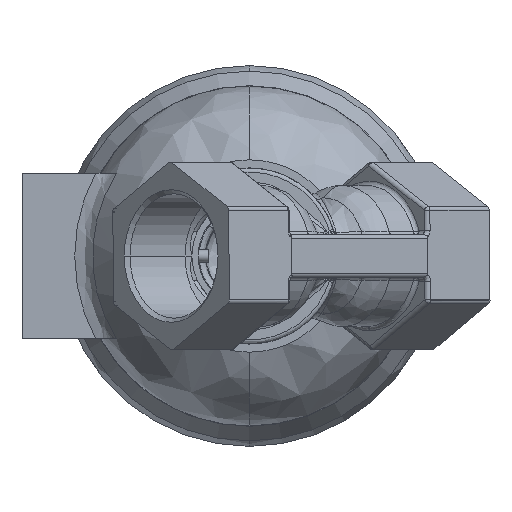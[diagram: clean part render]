
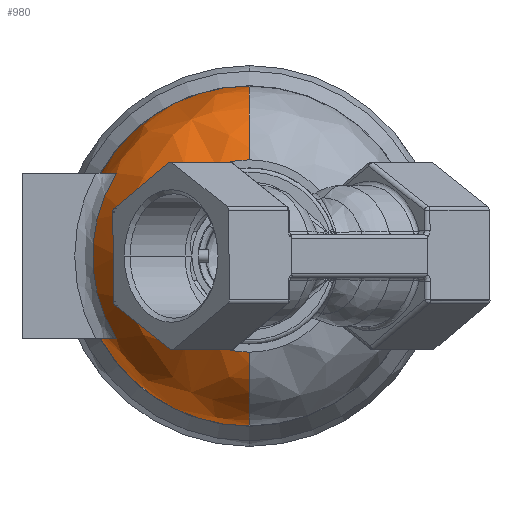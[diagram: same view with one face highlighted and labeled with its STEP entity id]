
A CAD part, front view. The second image highlights one B-rep face of the part: STEP entity #980.
In plain terms, the highlighted free-form (B-spline) face has degree [3, 3] with [4, 4] control points.
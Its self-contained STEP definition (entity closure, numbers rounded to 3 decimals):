
#656 = CARTESIAN_POINT ( 'NONE',  ( -34.305, 115.412, 20.25 ) ) ;
#858 = FACE_OUTER_BOUND ( 'NONE', #8197, .T. ) ;
#980 = ADVANCED_FACE ( 'NONE', ( #858 ), #2939, .T. ) ;
#1002 = CARTESIAN_POINT ( 'NONE',  ( -32.448, 111.996, 20.25 ) ) ;
#1094 = DIRECTION ( 'NONE',  ( 0., 0., -1. ) ) ;
#1154 = CARTESIAN_POINT ( 'NONE',  ( 0., 124.572, -15.553 ) ) ;
#1777 = ORIENTED_EDGE ( 'NONE', *, *, #3119, .F. ) ;
#1805 = B_SPLINE_CURVE_WITH_KNOTS ( 'NONE', 3,
 ( #13425, #9575, #10855, #5617, #14709, #6995, #16020, #8314, #656, #9633, #1921, #10908 ),
 .UNSPECIFIED., .F., .F.,
 ( 4, 2, 2, 2, 2, 4 ),
 ( 0., 0.003, 0.007, 0.008, 0.01, 0.013 ),
 .UNSPECIFIED. ) ;
#1809 = VERTEX_POINT ( 'NONE', #9975 ) ;
#1852 = CARTESIAN_POINT ( 'NONE',  ( 0., 124.572, -41.5 ) ) ;
#1901 = CARTESIAN_POINT ( 'NONE',  ( -83., 124.572, -41.5 ) ) ;
#1921 = CARTESIAN_POINT ( 'NONE',  ( -33.059, 112.932, 20.25 ) ) ;
#1935 = EDGE_CURVE ( 'NONE', #9170, #14294, #5599, .T. ) ;
#1960 = CARTESIAN_POINT ( 'NONE',  ( -83., 124.572, 41.5 ) ) ;
#2016 = CARTESIAN_POINT ( 'NONE',  ( 0., 124.572, 41.5 ) ) ;
#2172 = CARTESIAN_POINT ( 'NONE',  ( 0., 112.459, -41.5 ) ) ;
#2368 = EDGE_CURVE ( 'NONE', #9259, #14294, #13356, .T. ) ;
#2415 = DIRECTION ( 'NONE',  ( 0., 0., -1. ) ) ;
#2430 = EDGE_CURVE ( 'NONE', #9259, #15712, #1805, .T. ) ;
#2485 = CARTESIAN_POINT ( 'NONE',  ( -83., 112.459, -41.5 ) ) ;
#2519 = EDGE_CURVE ( 'NONE', #15712, #4223, #16381, .T. ) ;
#2538 = CARTESIAN_POINT ( 'NONE',  ( -83., 112.459, 41.5 ) ) ;
#2581 = CARTESIAN_POINT ( 'NONE',  ( 0., 112.459, 41.5 ) ) ;
#2629 = CARTESIAN_POINT ( 'NONE',  ( 0., 102.815, -34.171 ) ) ;
#2682 = CARTESIAN_POINT ( 'NONE',  ( -68.341, 102.815, -34.171 ) ) ;
#2704 = CARTESIAN_POINT ( 'NONE',  ( -68.341, 102.815, 34.171 ) ) ;
#2736 = CARTESIAN_POINT ( 'NONE',  ( 0., 102.815, 34.171 ) ) ;
#2761 = CARTESIAN_POINT ( 'NONE',  ( 0., 99.572, -22.5 ) ) ;
#2786 = CARTESIAN_POINT ( 'NONE',  ( -45., 99.572, -22.5 ) ) ;
#2840 = CARTESIAN_POINT ( 'NONE',  ( -45., 99.572, 22.5 ) ) ;
#2867 = CARTESIAN_POINT ( 'NONE',  ( 0., 99.572, 22.5 ) ) ;
#2939 =( BOUNDED_SURFACE ( )  B_SPLINE_SURFACE ( 3, 3, ( 
 ( #2867, #2840, #2786, #2761 ),
 ( #2736, #2704, #2682, #2629 ),
 ( #2581, #2538, #2485, #2172 ),
 ( #2016, #1960, #1901, #1852 ) ),
 .UNSPECIFIED., .F., .F., .T. ) 
 B_SPLINE_SURFACE_WITH_KNOTS ( ( 4, 4 ),
 ( 4, 4 ),
 ( 0., 1. ),
 ( 0., 1. ),
 .UNSPECIFIED. ) 
 GEOMETRIC_REPRESENTATION_ITEM ( )  RATIONAL_B_SPLINE_SURFACE ( (
 ( 1., 0.333, 0.333, 1.),
 ( 0.864, 0.288, 0.288, 0.864),
 ( 0.864, 0.288, 0.288, 0.864),
 ( 1., 0.333, 0.333, 1.) ) ) 
 REPRESENTATION_ITEM ( '' )  SURFACE ( )  );
#3028 = CARTESIAN_POINT ( 'NONE',  ( 0., 124.572, 0. ) ) ;
#3097 = EDGE_CURVE ( 'NONE', #4888, #10161, #6463, .T. ) ;
#3119 = EDGE_CURVE ( 'NONE', #1809, #4888, #9741, .T. ) ;
#3322 = AXIS2_PLACEMENT_3D ( 'NONE', #13885, #6130, #15192 ) ;
#3475 = CARTESIAN_POINT ( 'NONE',  ( -34.532, 115.897, -20.25 ) ) ;
#3694 = EDGE_CURVE ( 'NONE', #1809, #9170, #15354, .T. ) ;
#4223 = VERTEX_POINT ( 'NONE', #9311 ) ;
#4238 = DIRECTION ( 'NONE',  ( 0., 0., -1. ) ) ;
#4700 = CARTESIAN_POINT ( 'NONE',  ( -35.409, 118.522, -20.25 ) ) ;
#4888 = VERTEX_POINT ( 'NONE', #10534 ) ;
#4942 = ORIENTED_EDGE ( 'NONE', *, *, #16267, .T. ) ;
#5141 = CARTESIAN_POINT ( 'NONE',  ( 0., 111.996, 0. ) ) ;
#5599 = CIRCLE ( 'NONE', #9887, 25.947 ) ;
#5617 = CARTESIAN_POINT ( 'NONE',  ( -35.819, 120.168, 20.25 ) ) ;
#5649 = CARTESIAN_POINT ( 'NONE',  ( 0., 124.572, 15.553 ) ) ;
#5861 = AXIS2_PLACEMENT_3D ( 'NONE', #1154, #10134, #2415 ) ;
#6029 = CARTESIAN_POINT ( 'NONE',  ( -35.796, 120.152, -20.25 ) ) ;
#6094 = AXIS2_PLACEMENT_3D ( 'NONE', #16471, #8792, #1094 ) ;
#6130 = DIRECTION ( 'NONE',  ( 0., 1., 0. ) ) ;
#6463 = CIRCLE ( 'NONE', #6094, 41.5 ) ;
#6493 = DIRECTION ( 'NONE',  ( 0., 0., -1. ) ) ;
#6995 = CARTESIAN_POINT ( 'NONE',  ( -35.1, 117.496, 20.25 ) ) ;
#7022 = DIRECTION ( 'NONE',  ( 0., 0., 1. ) ) ;
#7386 = CARTESIAN_POINT ( 'NONE',  ( -36.142, 122.346, -20.25 ) ) ;
#7639 = AXIS2_PLACEMENT_3D ( 'NONE', #5141, #14239, #6493 ) ;
#7858 = AXIS2_PLACEMENT_3D ( 'NONE', #3028, #12036, #4238 ) ;
#8197 = EDGE_LOOP ( 'NONE', ( #15112, #12695, #10986, #12191, #15365, #4942, #15003, #1777 ) ) ;
#8314 = CARTESIAN_POINT ( 'NONE',  ( -34.522, 115.924, 20.25 ) ) ;
#8713 = CARTESIAN_POINT ( 'NONE',  ( -36.224, 124.572, -20.25 ) ) ;
#8792 = DIRECTION ( 'NONE',  ( 0., 1., 0. ) ) ;
#9170 = VERTEX_POINT ( 'NONE', #15033 ) ;
#9259 = VERTEX_POINT ( 'NONE', #14106 ) ;
#9311 = CARTESIAN_POINT ( 'NONE',  ( -32.448, 111.996, -20.25 ) ) ;
#9575 = CARTESIAN_POINT ( 'NONE',  ( -36.224, 123.454, 20.25 ) ) ;
#9633 = CARTESIAN_POINT ( 'NONE',  ( -33.6, 113.903, 20.25 ) ) ;
#9741 = CIRCLE ( 'NONE', #5861, 25.947 ) ;
#9887 = AXIS2_PLACEMENT_3D ( 'NONE', #5649, #14733, #7022 ) ;
#9903 = CARTESIAN_POINT ( 'NONE',  ( -33.059, 112.931, -20.25 ) ) ;
#9975 = CARTESIAN_POINT ( 'NONE',  ( 0., 99.572, -22.5 ) ) ;
#10134 = DIRECTION ( 'NONE',  ( 1., 0., 0. ) ) ;
#10161 = VERTEX_POINT ( 'NONE', #15841 ) ;
#10534 = CARTESIAN_POINT ( 'NONE',  ( 0., 124.572, -41.5 ) ) ;
#10855 = CARTESIAN_POINT ( 'NONE',  ( -36.142, 122.349, 20.25 ) ) ;
#10908 = CARTESIAN_POINT ( 'NONE',  ( -32.448, 111.996, 20.25 ) ) ;
#10961 = B_SPLINE_CURVE_WITH_KNOTS ( 'NONE', 3,
 ( #15048, #9903, #11232, #3475, #12507, #4700, #13796, #6029, #15099, #7386, #16403, #8713 ),
 .UNSPECIFIED., .F., .F.,
 ( 4, 2, 2, 2, 2, 4 ),
 ( 0., 0.003, 0.007, 0.008, 0.01, 0.013 ),
 .UNSPECIFIED. ) ;
#10986 = ORIENTED_EDGE ( 'NONE', *, *, #2368, .F. ) ;
#11232 = CARTESIAN_POINT ( 'NONE',  ( -33.598, 113.899, -20.25 ) ) ;
#12036 = DIRECTION ( 'NONE',  ( 0., 1., 0. ) ) ;
#12191 = ORIENTED_EDGE ( 'NONE', *, *, #2430, .T. ) ;
#12507 = CARTESIAN_POINT ( 'NONE',  ( -34.927, 116.928, -20.25 ) ) ;
#12695 = ORIENTED_EDGE ( 'NONE', *, *, #1935, .T. ) ;
#13356 = CIRCLE ( 'NONE', #7858, 41.5 ) ;
#13425 = CARTESIAN_POINT ( 'NONE',  ( -36.224, 124.572, 20.25 ) ) ;
#13693 = CARTESIAN_POINT ( 'NONE',  ( 0., 124.572, 41.5 ) ) ;
#13796 = CARTESIAN_POINT ( 'NONE',  ( -35.552, 119.063, -20.25 ) ) ;
#13885 = CARTESIAN_POINT ( 'NONE',  ( 0., 99.572, 0. ) ) ;
#14106 = CARTESIAN_POINT ( 'NONE',  ( -36.224, 124.572, 20.25 ) ) ;
#14239 = DIRECTION ( 'NONE',  ( 0., -1., 0. ) ) ;
#14294 = VERTEX_POINT ( 'NONE', #13693 ) ;
#14709 = CARTESIAN_POINT ( 'NONE',  ( -35.58, 119.091, 20.25 ) ) ;
#14733 = DIRECTION ( 'NONE',  ( -1., 0., 0. ) ) ;
#15003 = ORIENTED_EDGE ( 'NONE', *, *, #3097, .F. ) ;
#15033 = CARTESIAN_POINT ( 'NONE',  ( 0., 99.572, 22.5 ) ) ;
#15048 = CARTESIAN_POINT ( 'NONE',  ( -32.448, 111.996, -20.25 ) ) ;
#15099 = CARTESIAN_POINT ( 'NONE',  ( -35.897, 120.698, -20.25 ) ) ;
#15112 = ORIENTED_EDGE ( 'NONE', *, *, #3694, .T. ) ;
#15192 = DIRECTION ( 'NONE',  ( 0., 0., -1. ) ) ;
#15354 = CIRCLE ( 'NONE', #3322, 22.5 ) ;
#15365 = ORIENTED_EDGE ( 'NONE', *, *, #2519, .T. ) ;
#15712 = VERTEX_POINT ( 'NONE', #1002 ) ;
#15841 = CARTESIAN_POINT ( 'NONE',  ( -36.224, 124.572, -20.25 ) ) ;
#16020 = CARTESIAN_POINT ( 'NONE',  ( -34.92, 116.966, 20.25 ) ) ;
#16267 = EDGE_CURVE ( 'NONE', #4223, #10161, #10961, .T. ) ;
#16381 = CIRCLE ( 'NONE', #7639, 38.248 ) ;
#16403 = CARTESIAN_POINT ( 'NONE',  ( -36.224, 123.454, -20.25 ) ) ;
#16471 = CARTESIAN_POINT ( 'NONE',  ( 0., 124.572, 0. ) ) ;
